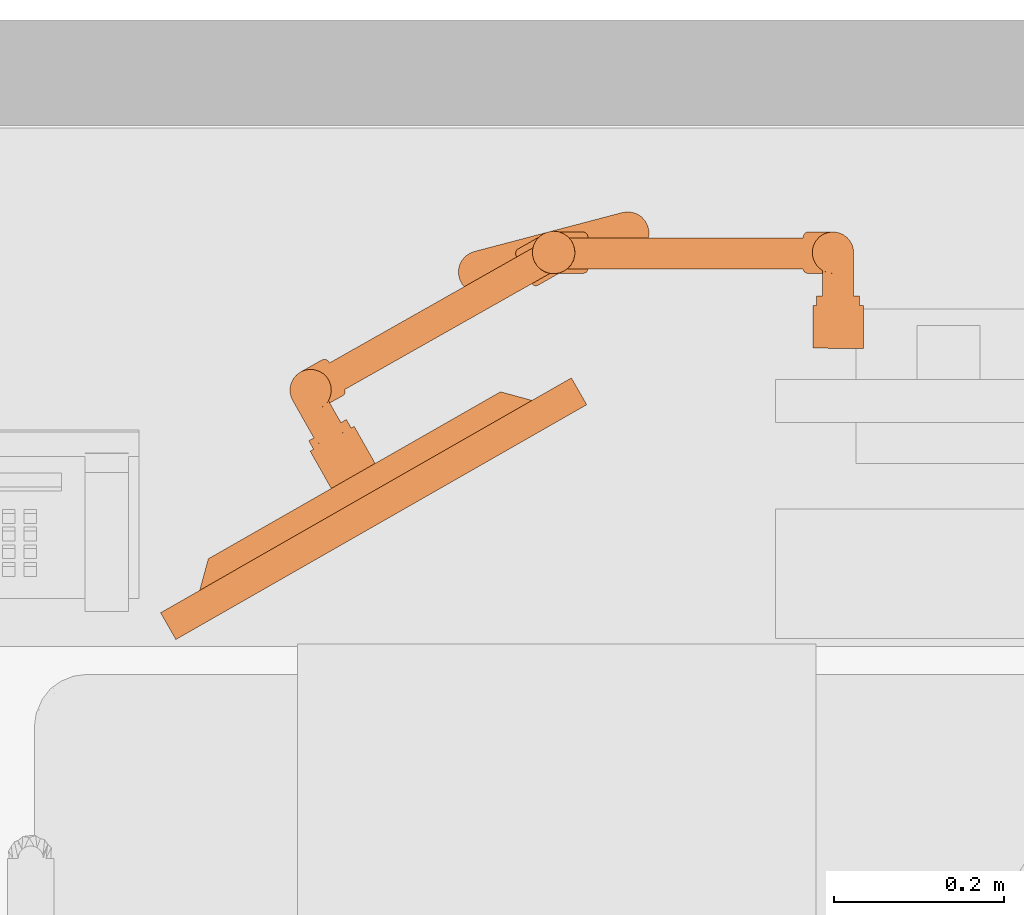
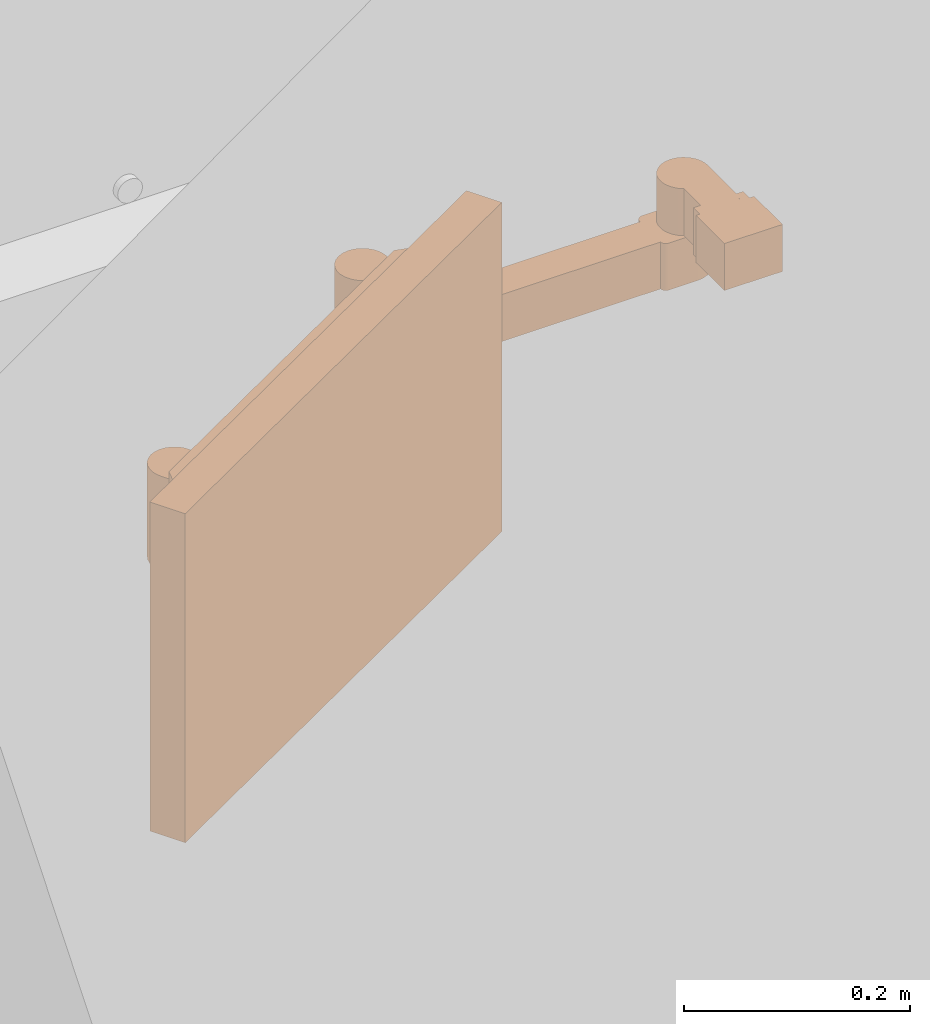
# One storey, part 9 of 15: 2 proxies.
"""IFC2X3 building model written with IfcOpenShell, lengths in feet."""

from ifc_helpers import new_model, entity, si_unit, converted_unit, derived_unit, direction, frame, frame_2d, origin, origin_2d_with_axis, place, context, subcontext, project, spatial, polyline, circle_curve, parameter, trimmed, segment, composite_curve, rectangle, circle, outline, extrude, source, transform, mapped, type_object, type_shapes, element, save


model = new_model("IFC2X3")

# Units and contexts
model_context = context("Model", 3, precision=0.0001, world=origin(), true_north=direction((6.12303176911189e-17, 1.0)))
body_context = subcontext(model_context, "Body", "Model", "MODEL_VIEW")
ifc_project = project(units=[converted_unit("LENGTHUNIT", "FOOT", entity("IfcRatioMeasure", 0.3048), si_unit("LENGTHUNIT", "METRE"), dimensions=[1, 0, 0, 0, 0, 0, 0]), converted_unit("AREAUNIT", "SQUARE FOOT", entity("IfcRatioMeasure", 0.09290304), si_unit("AREAUNIT", "SQUARE_METRE"), dimensions=[2, 0, 0, 0, 0, 0, 0]), converted_unit("VOLUMEUNIT", "CUBIC FOOT", entity("IfcRatioMeasure", 0.028316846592), si_unit("VOLUMEUNIT", "CUBIC_METRE"), dimensions=[3, 0, 0, 0, 0, 0, 0]), converted_unit("PLANEANGLEUNIT", "DEGREE", entity("IfcRatioMeasure", 0.0174532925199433), si_unit("PLANEANGLEUNIT", "RADIAN"), dimensions=[0, 0, 0, 0, 0, 0, 0]), si_unit("MASSUNIT", "GRAM", prefix="KILO"), derived_unit("MASSDENSITYUNIT", [(si_unit("MASSUNIT", "GRAM", prefix="KILO"), 1), (si_unit("LENGTHUNIT", "METRE"), -3)]), si_unit("TIMEUNIT", "SECOND"), si_unit("FREQUENCYUNIT", "HERTZ"), si_unit("THERMODYNAMICTEMPERATUREUNIT", "DEGREE_CELSIUS"), derived_unit("THERMALTRANSMITTANCEUNIT", [(si_unit("MASSUNIT", "GRAM", prefix="KILO"), 1), (si_unit("THERMODYNAMICTEMPERATUREUNIT", "KELVIN"), -1), (si_unit("TIMEUNIT", "SECOND"), -3)]), derived_unit("VOLUMETRICFLOWRATEUNIT", [(si_unit("LENGTHUNIT", "METRE"), 3), (si_unit("TIMEUNIT", "SECOND"), -1)]), si_unit("ELECTRICCURRENTUNIT", "AMPERE"), si_unit("ELECTRICVOLTAGEUNIT", "VOLT"), si_unit("POWERUNIT", "WATT"), si_unit("FORCEUNIT", "NEWTON"), si_unit("ILLUMINANCEUNIT", "LUX"), si_unit("LUMINOUSFLUXUNIT", "LUMEN"), si_unit("LUMINOUSINTENSITYUNIT", "CANDELA"), derived_unit("USERDEFINED", [(si_unit("MASSUNIT", "GRAM", prefix="KILO"), -1), (si_unit("LENGTHUNIT", "METRE"), -2), (si_unit("TIMEUNIT", "SECOND"), 3), (si_unit("LUMINOUSFLUXUNIT", "LUMEN"), 1)]), derived_unit("LINEARVELOCITYUNIT", [(si_unit("LENGTHUNIT", "METRE"), 1), (si_unit("TIMEUNIT", "SECOND"), -1)]), si_unit("PRESSUREUNIT", "PASCAL"), derived_unit("USERDEFINED", [(si_unit("LENGTHUNIT", "METRE"), -2), (si_unit("MASSUNIT", "GRAM", prefix="KILO"), 1), (si_unit("TIMEUNIT", "SECOND"), -2)])], contexts=[model_context])

# Site, building, storey, space
site_placement = place(None, origin())
site = spatial("IfcSite", under=ifc_project, at=site_placement, Name="Default", CompositionType="ELEMENT")
building_placement = place(site_placement, origin())
building = spatial("IfcBuilding", under=site, at=building_placement, Name="EYE CLINIC:  OPTHALMOLOGY AND OPTOMETRY SERVICES (Ch. 233)", CompositionType="ELEMENT")
storey_placement = place(building_placement, origin())
storey = spatial("IfcBuildingStorey", under=building, at=storey_placement, Name="DATUM", CompositionType="ELEMENT", Elevation=0.0)
space_placement = place(storey_placement, origin())
space = spatial("IfcSpace", under=storey, at=space_placement, Name="(OPLV2)", CompositionType="ELEMENT", InteriorOrExteriorSpace="INTERNAL")

# Proxies
building_element_proxy_type_1 = type_object("IfcBuildingElementProxyType", Name="A5225 - Dual  Flat Panel Monitor ARMS", PredefinedType="NOTDEFINED")
shared_shape_1 = source(origin(), body_context, "Body", "SweptSolid", [
    extrude(outline(composite_curve([segment(polyline([(-0.234804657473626, 0.69348870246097), (-0.00529516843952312, -0.178421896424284)]), True, "CONTINUOUS"), segment(polyline([(-0.00529516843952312, -0.178421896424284), (-0.00878224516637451, -0.179339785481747)]), True, "CONTINUOUS"), segment(trimmed(circle_curve(frame_2d((-0.00347901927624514, -0.199486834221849), x_axis=(1.0, 0.0)), 0.0208333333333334), [parameter(104.747209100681)], [parameter(194.747209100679)], True, "PARAMETER"), True, "CONTINUOUS"), segment(polyline([(-0.0236260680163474, -0.204790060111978), (0.000310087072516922, -0.295723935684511)]), True, "CONTINUOUS"), segment(trimmed(circle_curve(frame_2d((0.0775832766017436, -0.275383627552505), x_axis=(1.0, 0.0)), 0.0799054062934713), [parameter(194.747209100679)], [parameter(12.9847014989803)], True, "PARAMETER"), True, "CONTINUOUS"), segment(polyline([(0.155445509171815, -0.257429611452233), (0.129962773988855, -0.160620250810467)]), True, "CONTINUOUS"), segment(trimmed(circle_curve(frame_2d((0.113314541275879, -0.165002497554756), x_axis=(1.0, 0.0)), 0.0172153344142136), [parameter(14.7472091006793)], [parameter(104.032129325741)], True, "PARAMETER"), True, "CONTINUOUS"), segment(polyline([(0.10914040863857, -0.148300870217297), (-0.122350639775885, 0.731137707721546)]), True, "CONTINUOUS"), segment(trimmed(circle_curve(frame_2d((-0.196569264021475, 0.766052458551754), x_axis=(1.0, 0.0)), 0.0820209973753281), [parameter(242.214295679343)], [parameter(334.806246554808)], True, "PARAMETER"), False, "CONTINUOUS")], self_intersect=False)), frame((-0.766443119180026, -0.426874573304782, 0.588770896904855), z_axis=(0.0, 0.0, -1.0), x_axis=(0.0, 1.0, 0.0)), (0.0, 0.0, -1.0), 0.166666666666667),
    extrude(outline(composite_curve([segment(trimmed(circle_curve(frame_2d((-0.0257333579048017, 0.00677368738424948), x_axis=(1.0, 0.0)), 0.0799054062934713), [parameter(165.252790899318)], [parameter(343.490283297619)], True, "PARAMETER"), True, "CONTINUOUS"), segment(polyline([(0.0508776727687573, -0.0159336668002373), (0.05212887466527, -0.0111803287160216)]), True, "CONTINUOUS"), segment(trimmed(circle_curve(frame_2d((-0.0257333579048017, 0.00677368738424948), x_axis=(1.0, 0.0)), 0.0799054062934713), [parameter(347.01529850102)], [parameter(165.252790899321)], True, "PARAMETER"), True, "CONTINUOUS")], self_intersect=False)), frame((-1.03505305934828, -0.323557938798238, 0.755437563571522), z_axis=(0.0, 0.0, 1.0), x_axis=(0.0, 1.0, 0.0)), (0.0, 0.0, 1.0), 0.166666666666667),
    extrude(outline(composite_curve([segment(polyline([(-0.0732138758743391, -0.0665619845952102), (0.09292753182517, -0.0665619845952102)]), True, "CONTINUOUS"), segment(trimmed(circle_curve(frame_2d((0.0941564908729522, 0.0133339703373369), x_axis=(-0.967058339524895, -0.254554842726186)), 0.0799054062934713), [parameter(347.015298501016)], [parameter(74.3715370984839)], True, "PARAMETER"), False, "CONTINUOUS"), segment(polyline([(0.0142888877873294, 0.0108763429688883), (0.0142888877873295, 0.0157915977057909)]), True, "CONTINUOUS"), segment(trimmed(circle_curve(frame_2d((0.0941564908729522, 0.013333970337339), x_axis=(-0.967058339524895, -0.254554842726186)), 0.0799054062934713), [parameter(315.301217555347)], [parameter(343.490283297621)], True, "PARAMETER"), False, "CONTINUOUS"), segment(polyline([(0.0249226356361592, 0.0532281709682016), (-0.0732140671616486, 0.0532278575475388)]), True, "CONTINUOUS"), segment(trimmed(circle_curve(frame_2d((-0.0732138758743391, -0.00666706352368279), x_axis=(-0.967058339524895, -0.254554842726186)), 0.059894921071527), [parameter(255.252973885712)], [parameter(75.2527908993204)], True, "PARAMETER"), True, "CONTINUOUS")], self_intersect=False)), frame((-1.03075348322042, -0.254842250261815, 0.755437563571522), z_axis=(0.0, 0.0, 1.0), x_axis=(-0.254554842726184, -0.967058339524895, 0.0)), (0.0, 0.0, 1.0), 0.166666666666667),
    extrude(outline(composite_curve([segment(polyline([(-0.0382992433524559, -0.0723910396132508), (-0.0325648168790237, -0.0941765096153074)]), True, "CONTINUOUS"), segment(polyline([(-0.0325648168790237, -0.0941765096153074), (0.00369359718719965, -0.0846324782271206)]), True, "CONTINUOUS"), segment(polyline([(0.00369359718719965, -0.0846324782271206), (0.00753555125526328, -0.0992283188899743)]), True, "CONTINUOUS"), segment(polyline([(0.00753555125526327, -0.0992283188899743), (0.16736586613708, -0.0571573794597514)]), True, "CONTINUOUS"), segment(polyline([(0.16736586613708, -0.0571573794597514), (0.116889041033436, 0.131224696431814)]), True, "CONTINUOUS"), segment(polyline([(0.116889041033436, 0.131224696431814), (-0.042108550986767, 0.0893729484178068)]), True, "CONTINUOUS"), segment(polyline([(-0.042108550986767, 0.0893729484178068), (-0.0387316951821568, 0.0765440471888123)]), True, "CONTINUOUS"), segment(polyline([(-0.0387316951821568, 0.0765440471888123), (-0.0749901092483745, 0.0670000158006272)]), True, "CONTINUOUS"), segment(polyline([(-0.0749901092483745, 0.0670000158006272), (-0.0687896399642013, 0.0434440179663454)]), True, "CONTINUOUS"), segment(trimmed(circle_curve(frame_2d((-0.0528302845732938, -0.0142855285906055), x_axis=(1.0, 0.0)), 0.059894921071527), [parameter(284.040571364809)], [parameter(105.453480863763)], True, "PARAMETER"), False, "CONTINUOUS")], self_intersect=False)), frame((-1.00427844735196, -0.129512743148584, 0.755437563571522), z_axis=(0.0, 0.0, -1.0), x_axis=(0.0, 1.0, 0.0)), (0.0, 0.0, -1.0), 0.166666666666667),
    extrude(outline(composite_curve([segment(polyline([(0.0602572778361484, -0.055464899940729), (0.0827848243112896, -0.055464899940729)]), True, "CONTINUOUS"), segment(polyline([(0.0827848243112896, -0.055464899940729), (0.0827848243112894, -0.0179714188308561)]), True, "CONTINUOUS"), segment(polyline([(0.0827848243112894, -0.0179714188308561), (0.0978778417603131, -0.0179714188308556)]), True, "CONTINUOUS"), segment(polyline([(0.0978778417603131, -0.0179714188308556), (0.0978778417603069, 0.147303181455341)]), True, "CONTINUOUS"), segment(polyline([(0.0978778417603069, 0.147303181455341), (-0.0971477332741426, 0.146442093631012)]), True, "CONTINUOUS"), segment(polyline([(-0.0971477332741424, 0.146442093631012), (-0.0971477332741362, -0.0179714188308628)]), True, "CONTINUOUS"), segment(polyline([(-0.0971477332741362, -0.0179714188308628), (-0.0838818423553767, -0.0179714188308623)]), True, "CONTINUOUS"), segment(polyline([(-0.0838818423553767, -0.0179714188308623), (-0.0838818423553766, -0.0554648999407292)]), True, "CONTINUOUS"), segment(polyline([(-0.0838818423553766, -0.0554648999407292), (-0.0595234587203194, -0.0554648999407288)]), True, "CONTINUOUS"), segment(trimmed(circle_curve(frame_2d((0.000366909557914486, -0.0547264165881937), x_axis=(0.254551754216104, 0.967059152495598)), 0.059894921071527), [parameter(284.040571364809)], [parameter(105.453480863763)], True, "PARAMETER"), False, "CONTINUOUS")], self_intersect=False)), frame((1.0034971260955, -0.129512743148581, 0.755437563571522), z_axis=(0.0, 0.0, 1.0), x_axis=(0.967059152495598, 0.254551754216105, 0.0)), (0.0, 0.0, 1.0), 0.166666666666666),
    extrude(outline(composite_curve([segment(trimmed(circle_curve(frame_2d((0.0724992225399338, 0.0121895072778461), x_axis=(1.0, 0.0)), 0.059894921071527), [parameter(284.74720910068)], [parameter(104.747026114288)], True, "PARAMETER"), True, "CONTINUOUS"), segment(polyline([(0.0572528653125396, 0.0701114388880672), (-0.0376511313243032, 0.0451305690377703)]), True, "CONTINUOUS"), segment(trimmed(circle_curve(frame_2d((-0.0944490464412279, -0.0110732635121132), x_axis=(1.0, 0.0)), 0.0799054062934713), [parameter(16.509716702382)], [parameter(44.6987824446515)], True, "PARAMETER"), False, "CONTINUOUS"), segment(polyline([(-0.0178380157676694, 0.0116340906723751), (-0.016586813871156, 0.00688075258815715)]), True, "CONTINUOUS"), segment(trimmed(circle_curve(frame_2d((-0.0944490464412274, -0.0110732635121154), x_axis=(1.0, 0.0)), 0.0799054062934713), [parameter(285.628462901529)], [parameter(12.9847014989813)], True, "PARAMETER"), False, "CONTINUOUS"), segment(polyline([(-0.0729226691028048, -0.0880244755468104), (0.0877457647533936, -0.0457323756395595)]), True, "CONTINUOUS")], self_intersect=False)), frame((1.02997216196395, -0.254842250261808, 0.755437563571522), z_axis=(0.0, 0.0, 1.0), x_axis=(0.0, 1.0, 0.0)), (0.0, 0.0, 1.0), 0.166666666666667),
    extrude(outline(composite_curve([segment(trimmed(circle_curve(frame_2d((-0.0257333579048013, -0.00677368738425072), x_axis=(1.0, 0.0)), 0.0799054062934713), [parameter(194.74720910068)], [parameter(12.9847014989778)], True, "PARAMETER"), True, "CONTINUOUS"), segment(polyline([(0.0521288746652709, 0.0111803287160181), (0.050877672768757, 0.0159336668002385)]), True, "CONTINUOUS"), segment(trimmed(circle_curve(frame_2d((-0.0257333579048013, -0.00677368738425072), x_axis=(1.0, 0.0)), 0.0799054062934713), [parameter(16.509716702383)], [parameter(194.747209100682)], True, "PARAMETER"), True, "CONTINUOUS")], self_intersect=False)), frame((1.03427173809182, -0.323557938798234, 0.755437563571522), z_axis=(0.0, 0.0, 1.0), x_axis=(0.0, 1.0, 0.0)), (0.0, 0.0, 1.0), 0.166666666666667),
    extrude(circle(Radius=0.0820209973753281, at=frame_2d((-1.85274460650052e-31, -1.04300248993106e-16), x_axis=(1.0, 0.0))), frame((-0.000390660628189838, -0.624030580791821, 0.588770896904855), z_axis=(0.0, 0.0, 1.0), x_axis=(0.0, 1.0, 0.0)), (0.0, 0.0, 1.0), 0.385601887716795),
    extrude(outline(composite_curve([segment(trimmed(circle_curve(frame_2d((-0.79085507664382, -0.00490841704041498), x_axis=(0.254554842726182, -0.967058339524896)), 0.0820209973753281), [parameter(25.1937534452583)], [parameter(117.785704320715)], True, "PARAMETER"), False, "CONTINUOUS"), segment(polyline([(-0.738197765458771, -0.067794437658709), (0.17119781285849, -0.0677944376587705)]), True, "CONTINUOUS"), segment(trimmed(circle_curve(frame_2d((0.188411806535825, -0.0675795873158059), x_axis=(0.254554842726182, -0.967058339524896)), 0.0172153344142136), [parameter(255.967870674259)], [parameter(345.252790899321)], True, "PARAMETER"), True, "CONTINUOUS"), segment(polyline([(0.188411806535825, -0.0847949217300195), (0.288518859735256, -0.084794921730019)]), True, "CONTINUOUS"), segment(trimmed(circle_curve(frame_2d((0.286061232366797, -0.00492731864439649), x_axis=(0.254554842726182, -0.967058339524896)), 0.0799054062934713), [parameter(347.015298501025)], [parameter(165.252790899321)], True, "PARAMETER"), True, "CONTINUOUS"), segment(polyline([(0.286061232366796, 0.0749780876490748), (0.192029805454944, 0.074978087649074)]), True, "CONTINUOUS"), segment(trimmed(circle_curve(frame_2d((0.192029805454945, 0.0541447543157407), x_axis=(0.254554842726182, -0.967058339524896)), 0.0208333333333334), [parameter(165.252790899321)], [parameter(255.252790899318)], True, "PARAMETER"), True, "CONTINUOUS"), segment(polyline([(0.171196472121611, 0.0541447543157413), (0.171196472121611, 0.0505388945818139)]), True, "CONTINUOUS"), segment(polyline([(0.171196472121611, 0.0505388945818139), (-0.730414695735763, 0.050538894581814)]), True, "CONTINUOUS")], self_intersect=False)), frame((0.765661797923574, -0.426874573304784, 0.588770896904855), z_axis=(0.0, 0.0, -1.0), x_axis=(0.967058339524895, 0.254554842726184, 0.0)), (0.0, 0.0, -1.0), 0.166666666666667),
    extrude(outline(composite_curve([segment(polyline([(-0.027560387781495, -0.104702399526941), (0.104720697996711, -0.104702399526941)]), True, "CONTINUOUS"), segment(trimmed(circle_curve(frame_2d((0.104720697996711, -0.0838690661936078), x_axis=(0.254554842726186, 0.967058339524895)), 0.0208333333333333), [parameter(194.74720910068)], [parameter(284.74720910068)], True, "PARAMETER"), True, "CONTINUOUS"), segment(polyline([(0.125554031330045, -0.083869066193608), (0.125554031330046, 0.0378552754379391)]), True, "CONTINUOUS"), segment(trimmed(circle_curve(frame_2d((0.108338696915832, 0.0378552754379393), x_axis=(0.254554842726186, 0.967058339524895)), 0.0172153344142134), [parameter(284.747209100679)], [parameter(14.7472091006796)], True, "PARAMETER"), True, "CONTINUOUS"), segment(polyline([(0.108338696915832, 0.0550706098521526), (0.0144960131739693, 0.055070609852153)]), True, "CONTINUOUS"), segment(polyline([(0.0144960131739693, 0.055070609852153), (-0.067185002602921, 0.101273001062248)]), True, "CONTINUOUS"), segment(trimmed(circle_curve(frame_2d((-0.0756607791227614, 0.0862887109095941), x_axis=(0.254554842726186, 0.967058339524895)), 0.0172153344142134), [parameter(345.25279089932)], [parameter(75.2527908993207)], True, "PARAMETER"), True, "CONTINUOUS"), segment(polyline([(-0.0906450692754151, 0.0947644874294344), (-0.150574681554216, -0.0111848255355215)]), True, "CONTINUOUS"), segment(trimmed(circle_curve(frame_2d((-0.132441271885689, -0.0214418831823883), x_axis=(0.254554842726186, 0.967058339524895)), 0.0208333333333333), [parameter(75.2527908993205)], [parameter(165.252790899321)], True, "PARAMETER"), True, "CONTINUOUS"), segment(polyline([(-0.142698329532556, -0.0395752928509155), (-0.0275603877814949, -0.104702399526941)]), True, "CONTINUOUS")], self_intersect=False)), frame((-0.000390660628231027, -0.597782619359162, 0.505437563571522), z_axis=(0.0, 0.0, 1.0), x_axis=(0.967058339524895, 0.254554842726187, 0.0)), (0.0, 0.0, 1.0), 0.083333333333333),
    extrude(circle(Radius=0.0820209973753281, at=frame_2d((-1.85274460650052e-31, -1.04300248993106e-16), x_axis=(1.0, 0.0))), frame((-0.000390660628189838, -0.623443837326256, 0.0887708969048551), z_axis=(0.0, 0.0, 1.0), x_axis=(0.0, 1.0, 0.0)), (0.0, 0.0, 1.0), 0.416666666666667),
    extrude(outline(composite_curve([segment(polyline([(-0.295275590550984, -0.0820209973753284), (0.295275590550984, -0.0820209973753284)]), True, "CONTINUOUS"), segment(trimmed(circle_curve(frame_2d((0.295275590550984, 0.0), x_axis=(0.0, 1.0)), 0.0820209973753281), [parameter(180.0)], [parameter(0.0)], True, "PARAMETER"), True, "CONTINUOUS"), segment(polyline([(0.295275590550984, 0.0820209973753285), (-0.295275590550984, 0.0820209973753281)]), True, "CONTINUOUS"), segment(trimmed(circle_curve(frame_2d((-0.295275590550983, 0.0), x_axis=(0.0, 1.0)), 0.0820209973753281), [parameter(3.05333249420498e-13)], [parameter(180.0)], True, "PARAMETER"), True, "CONTINUOUS")], self_intersect=False)), frame((-0.000390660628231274, -0.623443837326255, 0.00543756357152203)), (0.0, 0.0, 1.0), 0.083333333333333),
])
type_shapes(building_element_proxy_type_1, [shared_shape_1])
proxy_1_placement = place(space_placement, frame((337.368935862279, 10.2138756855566, 3.0), z_axis=(0.0, 0.0, 1.0), x_axis=(-0.967059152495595, -0.254551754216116, 0.0)))
element("IfcBuildingElementProxy", 1, at=proxy_1_placement, inside=space, type_object=building_element_proxy_type_1, Name="A5225 - Dual Monitor Arms:A5225 - Dual  Flat Panel Monitor ARMS", ObjectType="A5225 - Dual  Flat Panel Monitor ARMS", context=body_context, shape_type="MappedRepresentation", body=[
    mapped(shared_shape_1, transform((0.0, 0.0, 0.0), scale=1.0)),
])
building_element_proxy_type_2 = type_object("IfcBuildingElementProxyType", Name="M1800 - Computer with Double Flat Panel Monitors", PredefinedType="NOTDEFINED")
shared_shape_2 = source(origin(), body_context, "Body", "SweptSolid", [
    extrude(outline(polyline([(0.427116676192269, -0.490290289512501), (0.553463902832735, -0.490290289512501), (-0.490290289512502, 0.553463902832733), (-0.490290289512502, 0.427116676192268), (0.427116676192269, -0.490290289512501)])), frame((0.0, -0.0446704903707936, 0.255437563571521), z_axis=(0.0, 0.0, 1.0), x_axis=(0.707106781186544, 0.707106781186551, 0.0)), (0.0, 0.0, 1.0), 0.999999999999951),
    extrude(rectangle(XDim=0.118992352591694, YDim=1.825, at=origin_2d_with_axis()), frame((-0.000550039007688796, 0.0594961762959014, 0.172104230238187), z_axis=(0.0, 0.0, 1.0), x_axis=(0.0, 1.0, 0.0)), (0.0, 0.0, 1.0), 1.16666666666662),
])
type_shapes(building_element_proxy_type_2, [shared_shape_2])
proxy_2_placement = place(space_placement, frame((336.486430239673, 9.88071212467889, 3.16666666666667), z_axis=(0.0, 0.0, 1.0), x_axis=(-0.868224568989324, -0.496171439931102, 0.0)))
element("IfcBuildingElementProxy", 2, at=proxy_2_placement, inside=space, type_object=building_element_proxy_type_2, Name="M1800 - Monitor, Computer:M1800 - Computer with Double Flat Panel Monitors", ObjectType="M1800 - Computer with Double Flat Panel Monitors", context=body_context, shape_type="MappedRepresentation", body=[
    mapped(shared_shape_2, transform((0.0, 0.0, 0.0), scale=1.0)),
])

save(model, "model.ifc")
